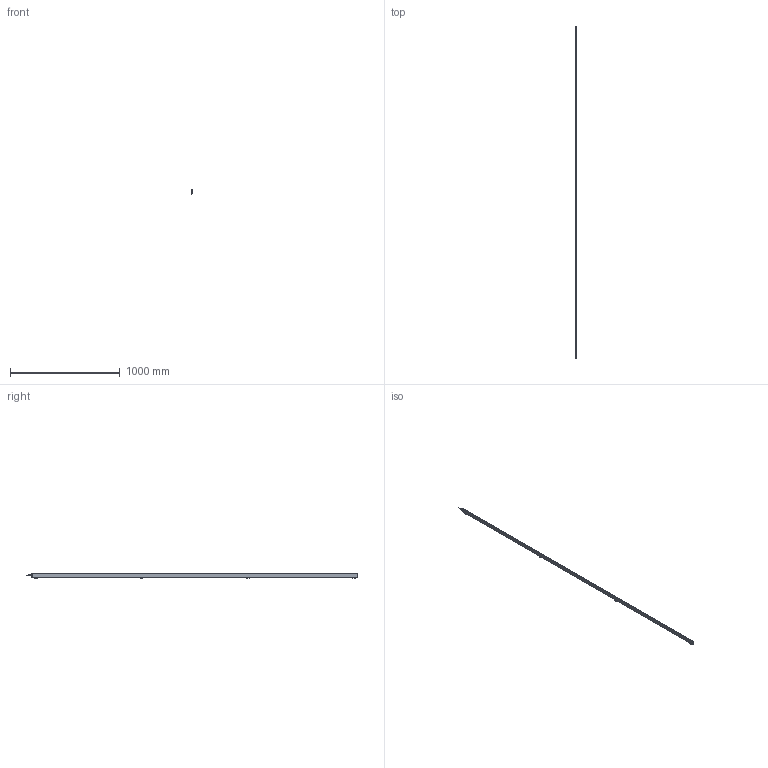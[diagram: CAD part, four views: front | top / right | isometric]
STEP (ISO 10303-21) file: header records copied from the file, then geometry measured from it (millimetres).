
FILE_DESCRIPTION (( 'STEP AP214' ), '1' );
FILE_NAME ('ILG-N-K2-2973mm.STEP', '2017-07-10T14:15:52', ( '' ), ( '' ), 'SwSTEP 2.0', 'SolidWorks 2016', '' );
FILE_SCHEMA (( 'AUTOMOTIVE_DESIGN' ));
Length unit declared in the file: millimetre
Products named in the file (1): ILG-N-K2-2973mm
Bounding box: 10.2 x 3026.5 x 42.41 mm (x, y, z)
Surface area: 495213.2 mm2 (no closed solid volume)
Topology: 0 solids, 17 shells, 822 faces, 2121 edges, 1329 vertices
Faces by surface type: plane 379, cylinder 305, cone 90, bspline 32, torus 16
Entity records: 36121 total; most frequent: CARTESIAN_POINT 7158, ORIENTED_EDGE 4195, DIRECTION 4057, EDGE_CURVE 2105, AXIS2_PLACEMENT_3D 1476, VERTEX_POINT 1329, LINE 1105, VECTOR 1105
